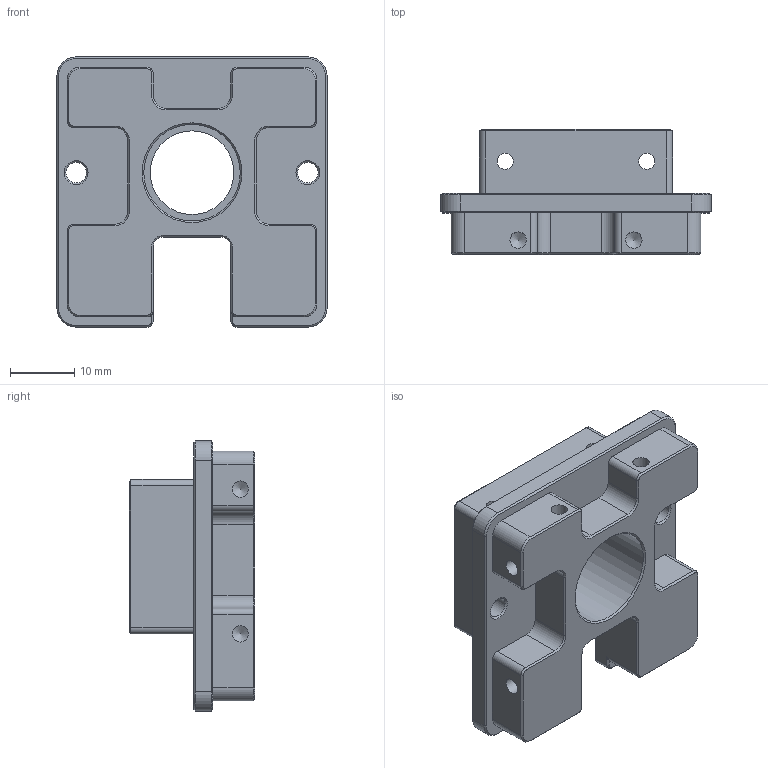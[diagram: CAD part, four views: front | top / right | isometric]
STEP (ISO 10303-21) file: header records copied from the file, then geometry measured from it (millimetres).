
FILE_DESCRIPTION(/* description */ (''),/* implementation_level */ '2;1');
FILE_NAME(/* name */ 'CANNULA END BEARING HOUSING.step',/* time_stamp */ '2026-10-23T15:35:54+05:30',/* author */ (''),/* organization */ (''),/* preprocessor_version */ 'ST-DEVELOPER v20.2',/* originating_system */ 'Autodesk Translation Framework v15.15.0.0',/* authorisation */ '');
FILE_SCHEMA (('AUTOMOTIVE_DESIGN { 1 0 10303 214 3 1 1 }'));
Length unit declared in the file: millimetre
Products named in the file (1): 2026-10-23-15-35-54-095
Bounding box: 42 x 19.5 x 42 mm (x, y, z)
Volume: 14488.1 mm3; surface area: 7528.4 mm2
Topology: 1 solids, 1 shells, 173 faces, 420 edges, 250 vertices
Faces by surface type: plane 75, cone 52, cylinder 46
Full cylindrical faces by diameter (mm): 2.529 x10, 3.2 x2, 13 x1, 15 x1
Entity records: 4989 total; most frequent: DIRECTION 902, CARTESIAN_POINT 836, ORIENTED_EDGE 824, EDGE_CURVE 412, AXIS2_PLACEMENT_3D 316, LINE 270, VECTOR 270, VERTEX_POINT 250
